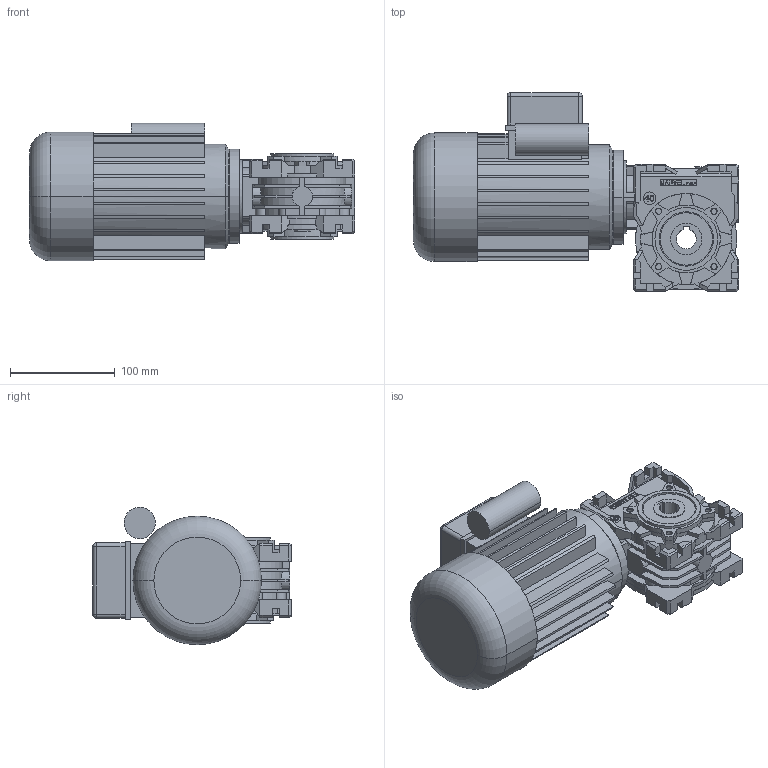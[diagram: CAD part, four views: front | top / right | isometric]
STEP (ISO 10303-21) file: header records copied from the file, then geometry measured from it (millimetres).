
FILE_DESCRIPTION (( 'STEP AP214' ), '1' );
FILE_NAME ('M63B14+RT40.STEP', '2020-04-20T07:38:40', ( '' ), ( '' ), 'SwSTEP 2.0', 'SolidWorks 2018', '' );
FILE_SCHEMA (( 'AUTOMOTIVE_DESIGN' ));
Length unit declared in the file: millimetre
Products named in the file (3): M63B14; M63B14+RT40; RT40
Assembly tree (2 placements, depth 2):
  M63B14+RT40
    RT40
    M63B14
Bounding box: 311 x 190 x 131.5 mm (x, y, z)
Volume: 2689957.7 mm3; surface area: 300930.6 mm2
Topology: 3 solids, 5 shells, 1096 faces, 2991 edges, 1952 vertices
Faces by surface type: plane 772, cylinder 258, cone 57, torus 5, sphere 4
Entity records: 36021 total; most frequent: CARTESIAN_POINT 7309, ORIENTED_EDGE 5958, DIRECTION 5787, EDGE_CURVE 2979, VECTOR 2135, LINE 2135, VERTEX_POINT 1952, AXIS2_PLACEMENT_3D 1826
